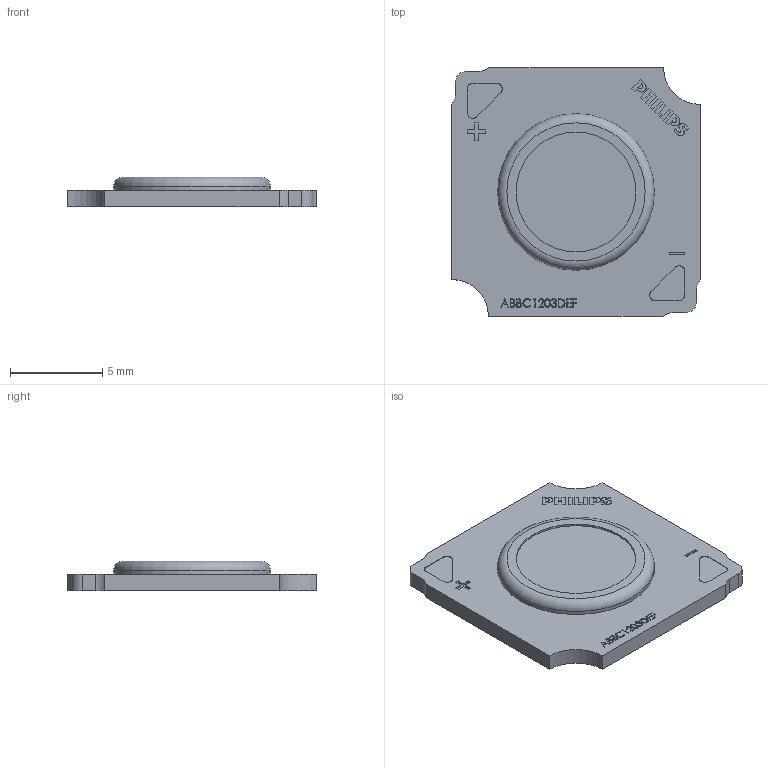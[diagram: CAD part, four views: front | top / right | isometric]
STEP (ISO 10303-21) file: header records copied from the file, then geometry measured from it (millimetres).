
FILE_DESCRIPTION(/* description */ (''),/* implementation_level */ '2;1');
FILE_NAME(/* name */ '1201 1202 G8N 20240722.stp',/* time_stamp */ '2024-08-15T16:10:02+08:00',/* author */ (''),/* organization */ (''),/* preprocessor_version */ 'ST-DEVELOPER v19.4',/* originating_system */ 'SIEMENS PLM Software NX2212.8901',/* authorisation */ '');
FILE_SCHEMA (('AUTOMOTIVE_DESIGN { 1 0 10303 214 3 1 1 1 }'));
Length unit declared in the file: millimetre
Products named in the file (1): 1201 1202 G8N 20240722_objects
Bounding box: 13.5 x 13.5 x 1.6 mm (x, y, z)
Volume: 191.2 mm3; surface area: 411.4 mm2
Topology: 1 solids, 1 shells, 482 faces, 1336 edges, 890 vertices
Faces by surface type: plane 402, extrusion 71, cylinder 8, torus 1
Full cylindrical faces by diameter (mm): 6.5 x1, 8.5 x1
Entity records: 19952 total; most frequent: CARTESIAN_POINT 7678, ORIENTED_EDGE 2666, DIRECTION 2107, EDGE_CURVE 1333, VECTOR 1237, LINE 1166, VERTEX_POINT 890, EDGE_LOOP 519
